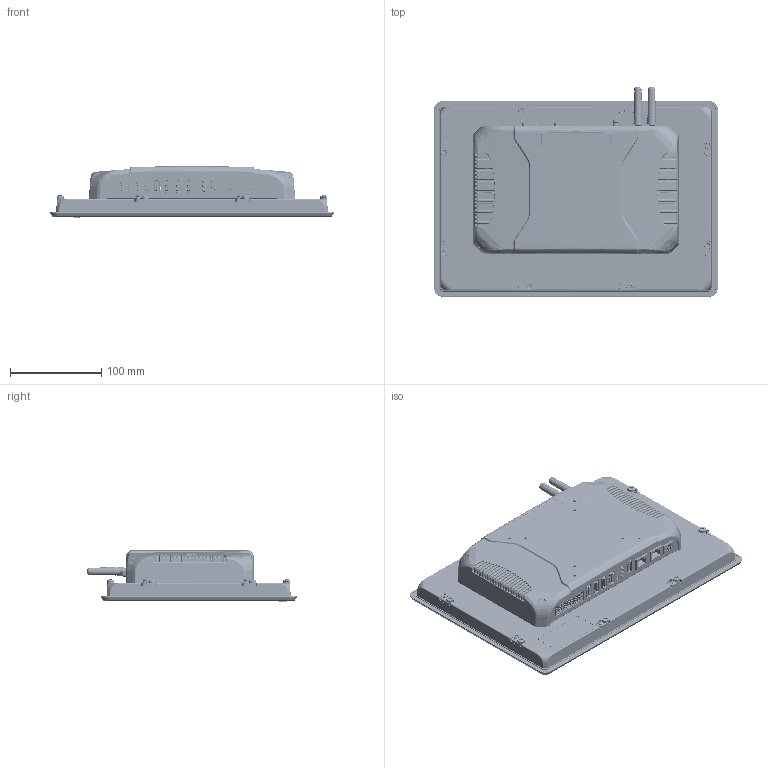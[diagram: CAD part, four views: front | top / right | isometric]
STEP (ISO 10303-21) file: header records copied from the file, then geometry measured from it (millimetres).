
FILE_DESCRIPTION (( 'STEP AP214' ), '1' );
FILE_NAME ('116.STEP', '2024-05-16T03:51:31', ( '' ), ( '' ), 'SwSTEP 2.0', 'SolidWorks 2018', '' );
FILE_SCHEMA (( 'AUTOMOTIVE_DESIGN' ));
Length unit declared in the file: millimetre
Products named in the file (1): 116
Bounding box: 310 x 228.89 x 56.5 mm (x, y, z)
Surface area: 472508.7 mm2 (no closed solid volume)
Topology: 0 solids, 825 shells, 13775 faces, 38191 edges, 25304 vertices
Faces by surface type: plane 7362, cylinder 3591, bspline 1682, torus 663, sphere 277, cone 200
Full cylindrical faces by diameter (mm): 0.3 x3, 0.34 x2, 0.5 x18, 0.7 x18, 0.8 x18, 1 x6, 1.2 x1, 1.4 x4, 1.5 x4, 2 x2, 2.2 x6, 2.3 x2, 2.5 x1, 2.6 x4, 3 x1, 3.2 x20, 3.5 x3, 4 x2, 4.2 x12, 4.5 x12, 4.9 x2, 5.9 x1, 6 x2, 7.306 x4, 7.6 x1, 8.1 x1, 8.429 x4
Entity records: 693577 total; most frequent: CARTESIAN_POINT 218261, ORIENTED_EDGE 70736, DIRECTION 57141, EDGE_CURVE 37396, VERTEX_POINT 25160, VECTOR 20213, LINE 20213, AXIS2_PLACEMENT_3D 18464
